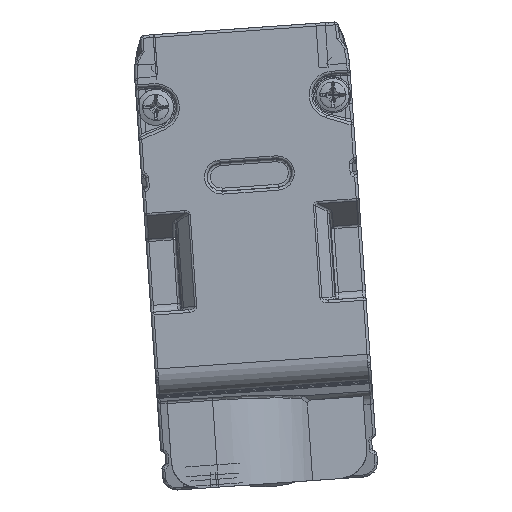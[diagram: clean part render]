
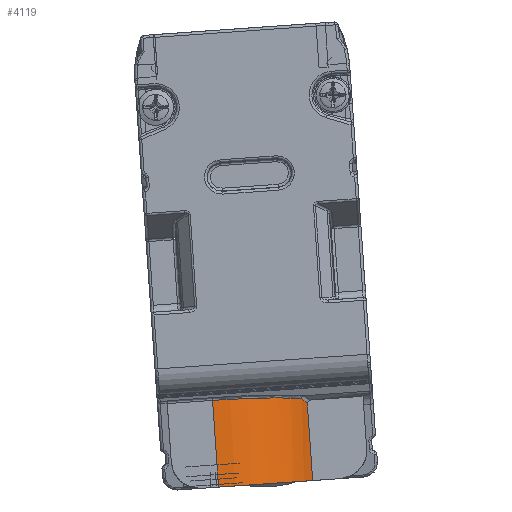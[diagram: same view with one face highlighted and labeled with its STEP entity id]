
A CAD part, front view. The second image highlights one B-rep face of the part: STEP entity #4119.
In plain terms, the highlighted cylindrical face has radius 7.5 mm (diameter 15 mm), a partial arc.
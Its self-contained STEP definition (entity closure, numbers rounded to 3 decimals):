
#280=ELLIPSE('',#23293,7.53,7.5);
#600=B_SPLINE_CURVE_WITH_KNOTS('',3,(#42571,#42572,#42573,#42574,#42575,
#42576,#42577),.UNSPECIFIED.,.F.,.F.,(4,3,4),(0.,0.485,1.),.UNSPECIFIED.);
#1561=CYLINDRICAL_SURFACE('',#23295,7.5);
#3092=CIRCLE('',#23294,7.5);
#4119=ADVANCED_FACE('',(#5374),#1561,.T.);
#5374=FACE_OUTER_BOUND('',#6458,.T.);
#6458=EDGE_LOOP('',(#11620,#11621,#11622,#11623,#11624));
#11620=ORIENTED_EDGE('',*,*,#17583,.T.);
#11621=ORIENTED_EDGE('',*,*,#17584,.T.);
#11622=ORIENTED_EDGE('',*,*,#17585,.T.);
#11623=ORIENTED_EDGE('',*,*,#17586,.T.);
#11624=ORIENTED_EDGE('',*,*,#17587,.F.);
#14249=VERTEX_POINT('',#42569);
#14250=VERTEX_POINT('',#42570);
#14251=VERTEX_POINT('',#42578);
#14252=VERTEX_POINT('',#42580);
#14253=VERTEX_POINT('',#42582);
#17583=EDGE_CURVE('',#14249,#14250,#19260,.T.);
#17584=EDGE_CURVE('',#14250,#14251,#600,.T.);
#17585=EDGE_CURVE('',#14251,#14252,#280,.T.);
#17586=EDGE_CURVE('',#14252,#14253,#19261,.T.);
#17587=EDGE_CURVE('',#14249,#14253,#3092,.T.);
#19260=LINE('',#42568,#20831);
#19261=LINE('',#42581,#20832);
#20831=VECTOR('',#29477,1.);
#20832=VECTOR('',#29480,1.);
#23293=AXIS2_PLACEMENT_3D('',#42579,#29478,#29479);
#23294=AXIS2_PLACEMENT_3D('',#42583,#29481,#29482);
#23295=AXIS2_PLACEMENT_3D('',#42584,#29483,#29484);
#29477=DIRECTION('',(-0.07,0.,0.998));
#29478=DIRECTION('',(0.069,-0.089,-0.994));
#29479=DIRECTION('',(0.006,0.996,-0.089));
#29480=DIRECTION('',(0.07,0.,-0.998));
#29481=DIRECTION('',(0.07,0.,-0.998));
#29482=DIRECTION('',(0.998,0.,0.07));
#29483=DIRECTION('',(0.07,0.,-0.998));
#29484=DIRECTION('',(0.,-1.,0.));
#42568=CARTESIAN_POINT('',(-40.701,-980.597,14.888));
#42569=CARTESIAN_POINT('',(-40.701,-980.597,14.888));
#42570=CARTESIAN_POINT('',(-41.088,-980.597,20.435));
#42571=CARTESIAN_POINT('',(-41.088,-980.597,20.435));
#42572=CARTESIAN_POINT('',(-41.139,-980.686,20.528));
#42573=CARTESIAN_POINT('',(-41.198,-980.793,20.603));
#42574=CARTESIAN_POINT('',(-41.263,-980.905,20.654));
#42575=CARTESIAN_POINT('',(-41.332,-981.024,20.708));
#42576=CARTESIAN_POINT('',(-41.408,-981.152,20.738));
#42577=CARTESIAN_POINT('',(-41.487,-981.278,20.743));
#42578=CARTESIAN_POINT('',(-41.487,-981.278,20.743));
#42579=CARTESIAN_POINT('',(-47.816,-977.318,19.944));
#42580=CARTESIAN_POINT('',(-47.863,-984.818,20.616));
#42581=CARTESIAN_POINT('',(-47.667,-984.818,17.815));
#42582=CARTESIAN_POINT('',(-47.43,-984.818,14.418));
#42583=CARTESIAN_POINT('',(-47.43,-977.318,14.418));
#42584=CARTESIAN_POINT('',(-52.434,-977.318,85.982));
